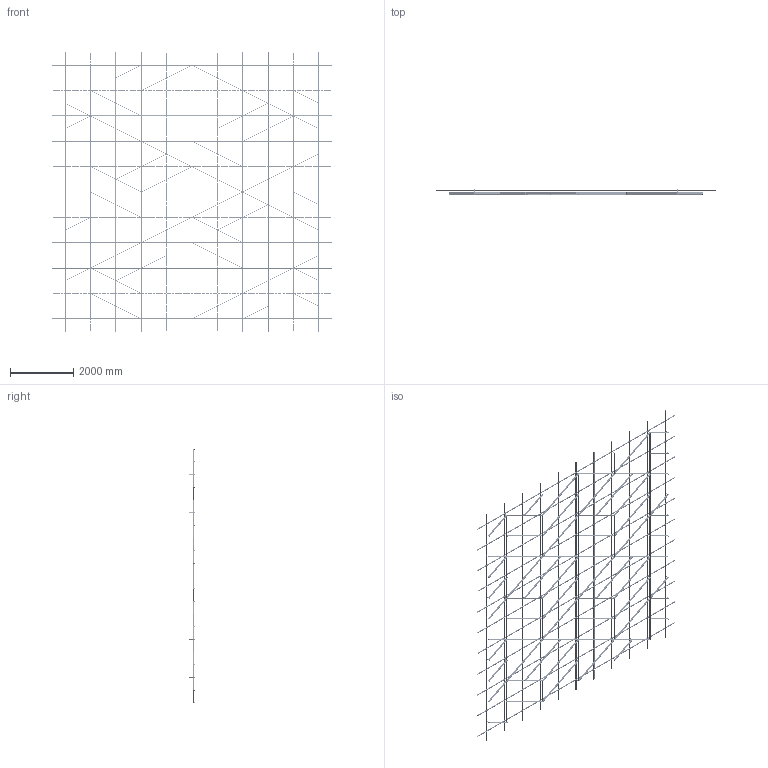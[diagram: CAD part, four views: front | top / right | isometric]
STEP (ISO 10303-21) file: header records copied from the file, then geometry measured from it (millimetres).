
FILE_DESCRIPTION (( 'STEP AP203' ), '1' );
FILE_NAME ('11 ìèíè ñ ïñ.step', '2025-11-25T12:53:59', ( '' ), ( '' ), 'SwSTEP 2.0', 'SolidWorks 2020', '' );
FILE_SCHEMA (( 'CONFIG_CONTROL_DESIGN' ));
Length unit declared in the file: millimetre
Products named in the file (5): Var11; SS.SEMA.2400 - Ñèìà-ïðîôèëü; SS.SEMA.2400 - Ñèìà-ïðîôèëü — îáðåçàí 1600; 11 ìèíè ñ ïñ; Ñèñòåìà â çîíå 8000õ8000
Assembly tree (90 placements, depth 3):
  11 ìèíè ñ ïñ
    Ñèñòåìà â çîíå 8000õ8000
      SS.SEMA.2400 - Ñèìà-ïðîôèëü  x66
      SS.SEMA.2400 - Ñèìà-ïðîôèëü — îáðåçàí 1600  x22
    Var11
Bounding box: 8800 x 158 x 8800 mm (x, y, z)
Volume: 71550157.6 mm3; surface area: 43402122.9 mm2
Topology: 533 solids, 533 shells, 18522 faces, 50960 edges, 33504 vertices
Faces by surface type: cylinder 12506, plane 6016
Entity records: 61569 total; most frequent: CARTESIAN_POINT 13792, DIRECTION 8990, ORIENTED_EDGE 8768, EDGE_CURVE 4384, AXIS2_PLACEMENT_3D 4246, VERTEX_POINT 2912, EDGE_LOOP 2528, ADVANCED_FACE 2366
